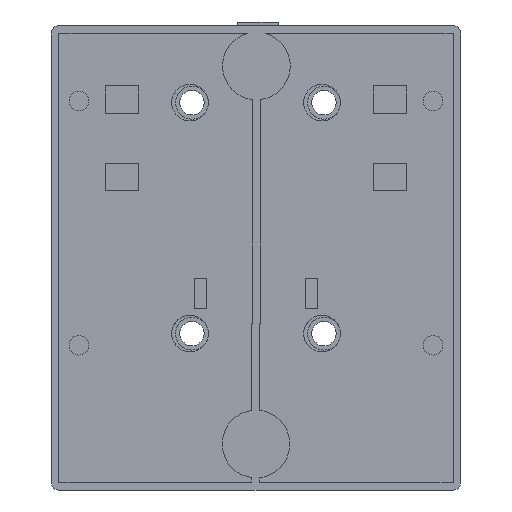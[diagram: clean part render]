
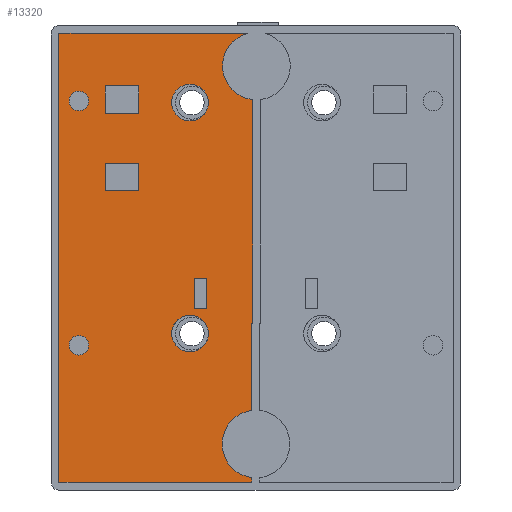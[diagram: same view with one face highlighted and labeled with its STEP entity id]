
A CAD part, front view. The second image highlights one B-rep face of the part: STEP entity #13320.
In plain terms, the highlighted planar face has unit normal (0, -1, 0).
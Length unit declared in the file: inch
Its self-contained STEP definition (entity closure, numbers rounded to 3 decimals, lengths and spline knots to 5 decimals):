
#725=FACE_BOUND('',#1965,.T.);
#726=FACE_BOUND('',#1966,.T.);
#727=FACE_BOUND('',#1967,.T.);
#728=FACE_BOUND('',#1968,.T.);
#729=FACE_BOUND('',#1969,.T.);
#730=FACE_BOUND('',#1970,.T.);
#731=FACE_BOUND('',#1971,.T.);
#826=CIRCLE('',#14258,0.15);
#828=CIRCLE('',#14261,0.15);
#830=CIRCLE('',#14263,0.15);
#831=CIRCLE('',#14265,0.277);
#832=CIRCLE('',#14266,0.277);
#833=CIRCLE('',#14267,0.08);
#834=CIRCLE('',#14268,0.08);
#1196=FACE_OUTER_BOUND('',#1964,.T.);
#1964=EDGE_LOOP('',(#8858,#8859,#8860,#8861,#8862,#8863,#8864,#8865,#8866));
#1965=EDGE_LOOP('',(#8867));
#1966=EDGE_LOOP('',(#8868,#8869,#8870,#8871));
#1967=EDGE_LOOP('',(#8872,#8873,#8874,#8875));
#1968=EDGE_LOOP('',(#8876,#8877,#8878,#8879));
#1969=EDGE_LOOP('',(#8880));
#1970=EDGE_LOOP('',(#8881));
#1971=EDGE_LOOP('',(#8882,#8883));
#2836=LINE('',#18470,#4192);
#2837=LINE('',#18472,#4193);
#2838=LINE('',#18476,#4194);
#2839=LINE('',#18478,#4195);
#2840=LINE('',#18480,#4196);
#2841=LINE('',#18482,#4197);
#2842=LINE('',#18485,#4198);
#2843=LINE('',#18488,#4199);
#2844=LINE('',#18490,#4200);
#2845=LINE('',#18492,#4201);
#2846=LINE('',#18493,#4202);
#2847=LINE('',#18496,#4203);
#2848=LINE('',#18498,#4204);
#2849=LINE('',#18500,#4205);
#2850=LINE('',#18501,#4206);
#2851=LINE('',#18504,#4207);
#2852=LINE('',#18506,#4208);
#2853=LINE('',#18508,#4209);
#2854=LINE('',#18509,#4210);
#4192=VECTOR('',#15226,0.3937);
#4193=VECTOR('',#15227,0.3937);
#4194=VECTOR('',#15230,0.3937);
#4195=VECTOR('',#15231,0.3937);
#4196=VECTOR('',#15232,0.3937);
#4197=VECTOR('',#15233,0.3937);
#4198=VECTOR('',#15236,0.3937);
#4199=VECTOR('',#15237,0.3937);
#4200=VECTOR('',#15238,0.3937);
#4201=VECTOR('',#15239,0.3937);
#4202=VECTOR('',#15240,0.3937);
#4203=VECTOR('',#15241,0.3937);
#4204=VECTOR('',#15242,0.3937);
#4205=VECTOR('',#15243,0.3937);
#4206=VECTOR('',#15244,0.3937);
#4207=VECTOR('',#15245,0.3937);
#4208=VECTOR('',#15246,0.3937);
#4209=VECTOR('',#15247,0.3937);
#4210=VECTOR('',#15248,0.3937);
#5546=VERTEX_POINT('',#18454);
#5548=VERTEX_POINT('',#18460);
#5549=VERTEX_POINT('',#18461);
#5551=VERTEX_POINT('',#18468);
#5552=VERTEX_POINT('',#18469);
#5553=VERTEX_POINT('',#18471);
#5554=VERTEX_POINT('',#18473);
#5555=VERTEX_POINT('',#18475);
#5556=VERTEX_POINT('',#18477);
#5557=VERTEX_POINT('',#18479);
#5558=VERTEX_POINT('',#18481);
#5559=VERTEX_POINT('',#18483);
#5560=VERTEX_POINT('',#18486);
#5561=VERTEX_POINT('',#18487);
#5562=VERTEX_POINT('',#18489);
#5563=VERTEX_POINT('',#18491);
#5564=VERTEX_POINT('',#18494);
#5565=VERTEX_POINT('',#18495);
#5566=VERTEX_POINT('',#18497);
#5567=VERTEX_POINT('',#18499);
#5568=VERTEX_POINT('',#18502);
#5569=VERTEX_POINT('',#18503);
#5570=VERTEX_POINT('',#18505);
#5571=VERTEX_POINT('',#18507);
#5572=VERTEX_POINT('',#18510);
#5573=VERTEX_POINT('',#18512);
#6854=EDGE_CURVE('',#5546,#5546,#826,.T.);
#6857=EDGE_CURVE('',#5548,#5549,#828,.T.);
#6860=EDGE_CURVE('',#5549,#5548,#830,.T.);
#6861=EDGE_CURVE('',#5551,#5552,#2836,.T.);
#6862=EDGE_CURVE('',#5552,#5553,#2837,.T.);
#6863=EDGE_CURVE('',#5553,#5554,#831,.T.);
#6864=EDGE_CURVE('',#5555,#5554,#2838,.F.);
#6865=EDGE_CURVE('',#5556,#5555,#2839,.F.);
#6866=EDGE_CURVE('',#5557,#5556,#2840,.F.);
#6867=EDGE_CURVE('',#5557,#5558,#2841,.T.);
#6868=EDGE_CURVE('',#5558,#5559,#832,.T.);
#6869=EDGE_CURVE('',#5559,#5551,#2842,.T.);
#6870=EDGE_CURVE('',#5560,#5561,#2843,.T.);
#6871=EDGE_CURVE('',#5561,#5562,#2844,.T.);
#6872=EDGE_CURVE('',#5562,#5563,#2845,.T.);
#6873=EDGE_CURVE('',#5563,#5560,#2846,.T.);
#6874=EDGE_CURVE('',#5564,#5565,#2847,.T.);
#6875=EDGE_CURVE('',#5565,#5566,#2848,.T.);
#6876=EDGE_CURVE('',#5566,#5567,#2849,.T.);
#6877=EDGE_CURVE('',#5567,#5564,#2850,.T.);
#6878=EDGE_CURVE('',#5568,#5569,#2851,.T.);
#6879=EDGE_CURVE('',#5569,#5570,#2852,.T.);
#6880=EDGE_CURVE('',#5570,#5571,#2853,.T.);
#6881=EDGE_CURVE('',#5571,#5568,#2854,.T.);
#6882=EDGE_CURVE('',#5572,#5572,#833,.T.);
#6883=EDGE_CURVE('',#5573,#5573,#834,.T.);
#8858=ORIENTED_EDGE('',*,*,#6861,.T.);
#8859=ORIENTED_EDGE('',*,*,#6862,.T.);
#8860=ORIENTED_EDGE('',*,*,#6863,.T.);
#8861=ORIENTED_EDGE('',*,*,#6864,.F.);
#8862=ORIENTED_EDGE('',*,*,#6865,.F.);
#8863=ORIENTED_EDGE('',*,*,#6866,.F.);
#8864=ORIENTED_EDGE('',*,*,#6867,.T.);
#8865=ORIENTED_EDGE('',*,*,#6868,.T.);
#8866=ORIENTED_EDGE('',*,*,#6869,.T.);
#8867=ORIENTED_EDGE('',*,*,#6854,.T.);
#8868=ORIENTED_EDGE('',*,*,#6870,.T.);
#8869=ORIENTED_EDGE('',*,*,#6871,.T.);
#8870=ORIENTED_EDGE('',*,*,#6872,.T.);
#8871=ORIENTED_EDGE('',*,*,#6873,.T.);
#8872=ORIENTED_EDGE('',*,*,#6874,.T.);
#8873=ORIENTED_EDGE('',*,*,#6875,.T.);
#8874=ORIENTED_EDGE('',*,*,#6876,.T.);
#8875=ORIENTED_EDGE('',*,*,#6877,.T.);
#8876=ORIENTED_EDGE('',*,*,#6878,.T.);
#8877=ORIENTED_EDGE('',*,*,#6879,.T.);
#8878=ORIENTED_EDGE('',*,*,#6880,.T.);
#8879=ORIENTED_EDGE('',*,*,#6881,.T.);
#8880=ORIENTED_EDGE('',*,*,#6882,.T.);
#8881=ORIENTED_EDGE('',*,*,#6883,.T.);
#8882=ORIENTED_EDGE('',*,*,#6857,.F.);
#8883=ORIENTED_EDGE('',*,*,#6860,.F.);
#12836=PLANE('',#14264);
#13320=ADVANCED_FACE('',(#1196,#725,#726,#727,#728,#729,#730,#731),#12836,
 .F.);
#14258=AXIS2_PLACEMENT_3D('',#18455,#15210,#15211);
#14261=AXIS2_PLACEMENT_3D('',#18462,#15217,#15218);
#14263=AXIS2_PLACEMENT_3D('',#18466,#15222,#15223);
#14264=AXIS2_PLACEMENT_3D('',#18467,#15224,#15225);
#14265=AXIS2_PLACEMENT_3D('',#18474,#15228,#15229);
#14266=AXIS2_PLACEMENT_3D('',#18484,#15234,#15235);
#14267=AXIS2_PLACEMENT_3D('',#18511,#15249,#15250);
#14268=AXIS2_PLACEMENT_3D('',#18513,#15251,#15252);
#15210=DIRECTION('center_axis',(0.,1.,0.));
#15211=DIRECTION('ref_axis',(1.,0.,0.));
#15217=DIRECTION('center_axis',(0.,-1.,0.));
#15218=DIRECTION('ref_axis',(1.,0.,0.));
#15222=DIRECTION('center_axis',(0.,-1.,0.));
#15223=DIRECTION('ref_axis',(1.,0.,0.));
#15224=DIRECTION('center_axis',(0.,1.,0.));
#15225=DIRECTION('ref_axis',(0.,0.,1.));
#15226=DIRECTION('',(1.,0.,0.));
#15227=DIRECTION('',(0.,0.,1.));
#15228=DIRECTION('center_axis',(0.,1.,0.));
#15229=DIRECTION('ref_axis',(-1.,0.,0.));
#15230=DIRECTION('',(-1.,0.,0.));
#15231=DIRECTION('',(0.,0.,-1.));
#15232=DIRECTION('',(1.,0.,0.));
#15233=DIRECTION('',(0.,0.,1.));
#15234=DIRECTION('center_axis',(0.,1.,0.));
#15235=DIRECTION('ref_axis',(-1.,0.,0.));
#15236=DIRECTION('',(0.,0.,1.));
#15237=DIRECTION('',(0.,0.,-1.));
#15238=DIRECTION('',(-1.,0.,0.));
#15239=DIRECTION('',(0.,0.,1.));
#15240=DIRECTION('',(1.,0.,0.));
#15241=DIRECTION('',(0.,0.,1.));
#15242=DIRECTION('',(1.,0.,0.));
#15243=DIRECTION('',(0.,0.,-1.));
#15244=DIRECTION('',(-1.,0.,0.));
#15245=DIRECTION('',(1.,0.,0.));
#15246=DIRECTION('',(0.,0.,-1.));
#15247=DIRECTION('',(-1.,0.,0.));
#15248=DIRECTION('',(0.,0.,1.));
#15249=DIRECTION('center_axis',(0.,1.,0.));
#15250=DIRECTION('ref_axis',(1.,0.,0.));
#15251=DIRECTION('center_axis',(0.,1.,0.));
#15252=DIRECTION('ref_axis',(1.,0.,0.));
#18454=CARTESIAN_POINT('',(-0.69,0.1225,1.2705));
#18455=CARTESIAN_POINT('Origin',(-0.54,0.1225,1.2705));
#18460=CARTESIAN_POINT('',(-0.39162,0.1225,-0.5975));
#18461=CARTESIAN_POINT('',(-0.69,0.1225,-0.6195));
#18462=CARTESIAN_POINT('Origin',(-0.54,0.1225,-0.6195));
#18466=CARTESIAN_POINT('Origin',(-0.54,0.1225,-0.6195));
#18467=CARTESIAN_POINT('Origin',(0.,0.1225,0.));
#18468=CARTESIAN_POINT('',(-0.03425,0.1225,-0.535));
#18469=CARTESIAN_POINT('',(-0.02825,0.1225,-0.535));
#18470=CARTESIAN_POINT('',(-0.01413,0.1225,-0.535));
#18471=CARTESIAN_POINT('',(-0.02825,0.1225,1.29477));
#18472=CARTESIAN_POINT('',(-0.02825,0.1225,0.91875));
#18473=CARTESIAN_POINT('',(-0.06892,0.1225,1.8375));
#18474=CARTESIAN_POINT('Origin',(0.003,0.1225,1.57));
#18475=CARTESIAN_POINT('',(-1.6125,0.1225,1.8375));
#18476=CARTESIAN_POINT('',(-0.8375,0.1225,1.8375));
#18477=CARTESIAN_POINT('',(-1.6125,0.1225,-1.8375));
#18478=CARTESIAN_POINT('',(-1.6125,0.1225,-0.95));
#18479=CARTESIAN_POINT('',(-0.03425,0.1225,-1.8375));
#18480=CARTESIAN_POINT('',(0.8375,0.1225,-1.8375));
#18481=CARTESIAN_POINT('',(-0.03425,0.1225,-1.7985));
#18482=CARTESIAN_POINT('',(-0.03425,0.1225,-0.29875));
#18483=CARTESIAN_POINT('',(-0.03425,0.1225,-1.24875));
#18484=CARTESIAN_POINT('Origin',(0.,0.1225,-1.52362));
#18485=CARTESIAN_POINT('',(-0.03425,0.1225,-0.29875));
#18486=CARTESIAN_POINT('',(-0.9575,0.1225,1.4065));
#18487=CARTESIAN_POINT('',(-0.9575,0.1225,1.1845));
#18488=CARTESIAN_POINT('',(-0.9575,0.1225,0.70325));
#18489=CARTESIAN_POINT('',(-1.2325,0.1225,1.1845));
#18490=CARTESIAN_POINT('',(-0.47875,0.1225,1.1845));
#18491=CARTESIAN_POINT('',(-1.2325,0.1225,1.4065));
#18492=CARTESIAN_POINT('',(-1.2325,0.1225,0.59225));
#18493=CARTESIAN_POINT('',(-0.61625,0.1225,1.4065));
#18494=CARTESIAN_POINT('',(-0.504,0.1225,-0.4165));
#18495=CARTESIAN_POINT('',(-0.504,0.1225,-0.1665));
#18496=CARTESIAN_POINT('',(-0.504,0.1225,-0.20825));
#18497=CARTESIAN_POINT('',(-0.404,0.1225,-0.1665));
#18498=CARTESIAN_POINT('',(-0.252,0.1225,-0.1665));
#18499=CARTESIAN_POINT('',(-0.404,0.1225,-0.4165));
#18500=CARTESIAN_POINT('',(-0.404,0.1225,-0.08325));
#18501=CARTESIAN_POINT('',(-0.202,0.1225,-0.4165));
#18502=CARTESIAN_POINT('',(-1.2325,0.1225,0.7695));
#18503=CARTESIAN_POINT('',(-0.9575,0.1225,0.7695));
#18504=CARTESIAN_POINT('',(-0.61625,0.1225,0.7695));
#18505=CARTESIAN_POINT('',(-0.9575,0.1225,0.5475));
#18506=CARTESIAN_POINT('',(-0.9575,0.1225,0.38475));
#18507=CARTESIAN_POINT('',(-1.2325,0.1225,0.5475));
#18508=CARTESIAN_POINT('',(-0.47875,0.1225,0.5475));
#18509=CARTESIAN_POINT('',(-1.2325,0.1225,0.27375));
#18510=CARTESIAN_POINT('',(-1.53,0.1225,1.284));
#18511=CARTESIAN_POINT('Origin',(-1.45,0.1225,1.284));
#18512=CARTESIAN_POINT('',(-1.53,0.1225,-0.716));
#18513=CARTESIAN_POINT('Origin',(-1.45,0.1225,-0.716));
